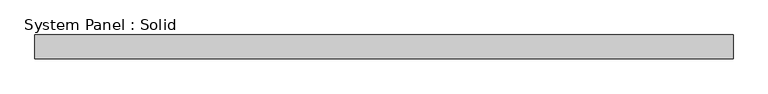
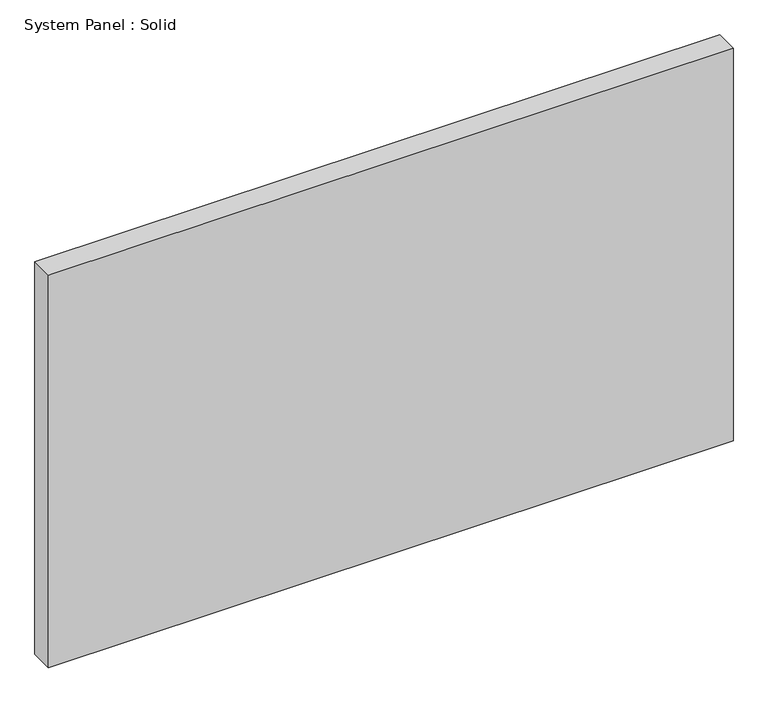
"""IFC4 building model written with IfcOpenShell, lengths in millimetres: plate geometry, System Panel : Solid."""

from ifc_helpers import new_model, si_unit, origin, origin_with_axes, place, context, project, spatial, polyline, outline, extrude, source, transform, mapped, element, save


def system_panel_solid_9da24cec(model_context):
    return source(origin(), model_context, "Body", "SweptSolid", [
        extrude(outline(polyline([(927.1, -44.45), (-927.1, -44.45), (-927.1, 19.05), (927.1, 19.05), (927.1, -44.45)])), origin_with_axes(), (0.0, 0.0, 1.0), 1123.95),
    ])


if __name__ == "__main__":
    model = new_model("IFC4")
    model_context = context("Model", 3, world=origin())
    ifc_project = project(units=[si_unit("LENGTHUNIT", "METRE", prefix="MILLI")], contexts=[model_context])
    site = spatial("IfcSite", under=ifc_project)
    building = spatial("IfcBuilding", under=site)
    placement = place(None, origin())
    system_panel_solid_shape = system_panel_solid_9da24cec(model_context)
    element("IfcPlate", 1, ObjectType="System Panel : Solid", at=placement, inside=building, context=model_context, shape_type="MappedRepresentation", body=[
        mapped(system_panel_solid_shape, transform((0.0, 0.0, 0.0), x_axis=(1.0, 0.0, 0.0), y_axis=(0.0, 1.0, 0.0), z_axis=(0.0, 0.0, 1.0))),
    ])
    save(model, "model.ifc")
